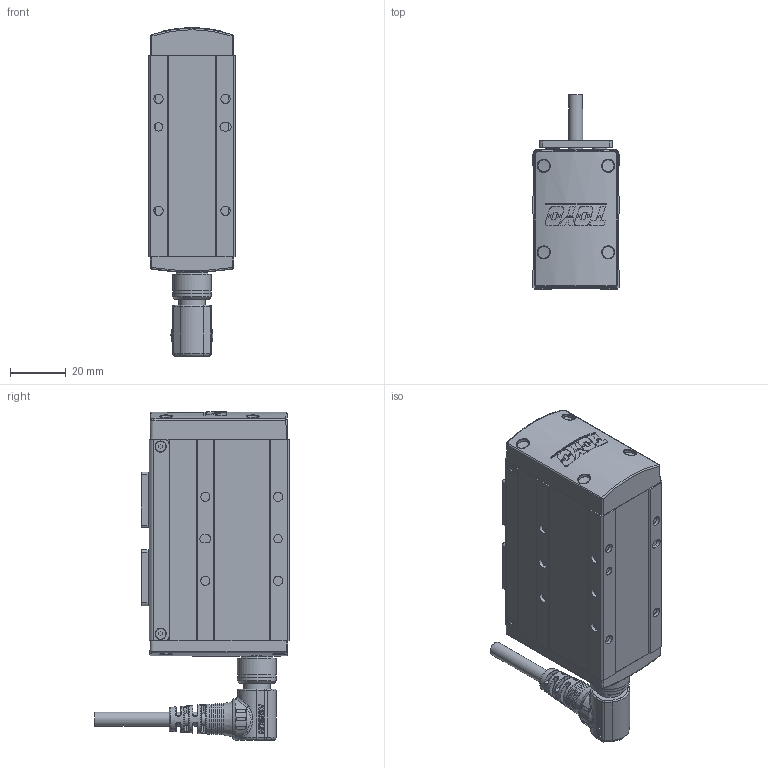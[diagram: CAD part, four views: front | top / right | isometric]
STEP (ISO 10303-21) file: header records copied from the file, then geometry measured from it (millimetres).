
FILE_DESCRIPTION(/* description */ ('STEP AP214'),/* implementation_level */ '2;1');
FILE_NAME(/* name */ 'D:\2025.02.25 帶電匯整給泊舟\3. CHS2系列\CHS2B-S20-WM.stp',/* time_stamp */ '2025-02-25T17:34:21+08:00',/* author */ ('T10033'),/* organization */ (''),/* preprocessor_version */ 'ST-DEVELOPER v18.1',/* originating_system */ 'Autodesk Inventor 2020',/* authorisation */ '');
FILE_SCHEMA (('CONFIG_CONTROL_DESIGN'));
Products named in the file (8): CHS2B-S20; 22012-000289_M2L6內六角; 12004-000153-02; 22013-000052_徑3L5定位銷; 22012-001387_M2.5L6內六角; 慶陞M12金屬頭; T34WTYWS34T_Shrinkwrap_1; M12-14PIN 線端90度接頭-05中繼線
Assembly tree (15 placements, depth 2):
  CHS2B-S20
    22012-000289_M2L6內六角  x2
    12004-000153-02  x2
    22013-000052_徑3L5定位銷  x4
    22012-001387_M2.5L6內六角  x4
    慶陞M12金屬頭
    T34WTYWS34T_Shrinkwrap_1
    M12-14PIN 線端90度接頭-05中繼線
Bounding box: 31 x 69.56 x 117.52 mm (x, y, z)
Volume: 130460.4 mm3; surface area: 30680.3 mm2
Topology: 29 solids, 34 shells, 2248 faces, 6217 edges, 4167 vertices
Faces by surface type: plane 1099, cylinder 482, cone 414, bspline 157, torus 92, sphere 4
Full cylindrical faces by diameter (mm): 0.6 x14, 0.65 x14, 1 x14, 2 x30, 2.5 x52, 2.6 x4, 3 x11, 3.3 x12, 3.8 x6, 4.5 x4, 4.8 x4, 5 x1, 8 x1, 8.9 x1, 9.5 x2, 9.6 x1, 10.5 x2, 10.9 x1, 11 x2, 11.2 x1, 11.25 x1, 12 x1, 13 x1, 13.8 x1, 14 x2, 14.4 x1, 16.482 x1
Entity records: 94384 total; most frequent: CARTESIAN_POINT 41793, ORIENTED_EDGE 10706, DIRECTION 10558, EDGE_CURVE 5371, AXIS2_PLACEMENT_3D 3961, VERTEX_POINT 3590, LINE 2636, VECTOR 2636
